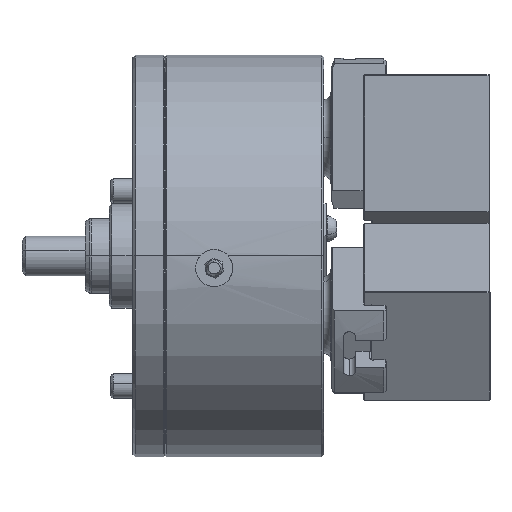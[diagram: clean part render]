
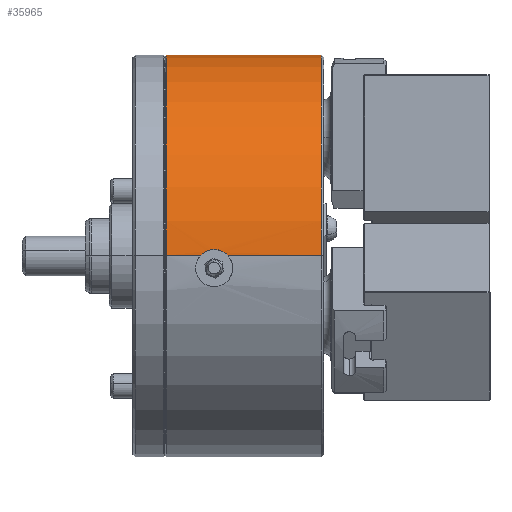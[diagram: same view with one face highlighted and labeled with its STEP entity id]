
A CAD part, top view. The second image highlights one B-rep face of the part: STEP entity #35965.
In plain terms, the highlighted cylindrical face has radius 81 mm (diameter 162 mm), a partial arc.
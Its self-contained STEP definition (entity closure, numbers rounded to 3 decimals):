
#706 = ORIENTED_EDGE ( 'NONE', *, *, #48794, .T. ) ;
#1682 = CARTESIAN_POINT ( 'NONE',  ( -80.961, 2.5, -44.464 ) ) ;
#2533 = CARTESIAN_POINT ( 'NONE',  ( 0., 0., -63.6 ) ) ;
#3473 = LINE ( 'NONE', #30294, #25094 ) ;
#4892 = DIRECTION ( 'NONE',  ( 0., 0., -1. ) ) ;
#5431 = EDGE_CURVE ( 'NONE', #20661, #7163, #3473, .T. ) ;
#5650 = CARTESIAN_POINT ( 'NONE',  ( -81., 0.39, -49.441 ) ) ;
#5854 = CARTESIAN_POINT ( 'NONE',  ( -80.963, 2.445, -43.155 ) ) ;
#6356 = AXIS2_PLACEMENT_3D ( 'NONE', #29260, #4892, #33348 ) ;
#6671 = DIRECTION ( 'NONE',  ( -1., 0., 0. ) ) ;
#7163 = VERTEX_POINT ( 'NONE', #44360 ) ;
#7672 = VERTEX_POINT ( 'NONE', #20949 ) ;
#8239 = FACE_OUTER_BOUND ( 'NONE', #20383, .T. ) ;
#9780 = CARTESIAN_POINT ( 'NONE',  ( -80.997, 0.749, -49.045 ) ) ;
#9901 = EDGE_CURVE ( 'NONE', #7672, #10346, #10875, .T. ) ;
#9946 = CARTESIAN_POINT ( 'NONE',  ( -80.97, 2.213, -42.128 ) ) ;
#10346 = VERTEX_POINT ( 'NONE', #22280 ) ;
#10875 = LINE ( 'NONE', #14349, #31211 ) ;
#11032 = AXIS2_PLACEMENT_3D ( 'NONE', #18103, #38410, #46587 ) ;
#11073 = EDGE_CURVE ( 'NONE', #21434, #42907, #24084, .T. ) ;
#13822 = CARTESIAN_POINT ( 'NONE',  ( -80.984, 1.63, -47.746 ) ) ;
#14015 = CARTESIAN_POINT ( 'NONE',  ( -80.976, 1.955, -41.382 ) ) ;
#14349 = CARTESIAN_POINT ( 'NONE',  ( -81., 0., -30.978 ) ) ;
#15987 = CARTESIAN_POINT ( 'NONE',  ( -81., 0., -49.79 ) ) ;
#16500 = B_SPLINE_CURVE_WITH_KNOTS ( 'NONE', 3,
 ( #34101, #5650, #9780, #38221, #13822, #42326, #17919, #46392, #21994, #50509, #26075, #1682, #30182, #5854, #34271, #9946, #38405, #14015, #42492, #18098, #46584, #22168, #50668 ),
 .UNSPECIFIED., .F., .F.,
 ( 4, 2, 2, 2, 1, 2, 2, 2, 2, 2, 2, 4 ),
 ( 0.034, 0.036, 0.038, 0.038, 0.039, 0.04, 0.041, 0.042, 0.043, 0.044, 0.045, 0.047 ),
 .UNSPECIFIED. ) ;
#17919 = CARTESIAN_POINT ( 'NONE',  ( -80.974, 2.049, -46.775 ) ) ;
#18098 = CARTESIAN_POINT ( 'NONE',  ( -80.989, 1.373, -40.21 ) ) ;
#18103 = CARTESIAN_POINT ( 'NONE',  ( 0., 0., -30.978 ) ) ;
#20383 = EDGE_LOOP ( 'NONE', ( #706, #51675, #21781, #39357, #22827, #42972 ) ) ;
#20661 = VERTEX_POINT ( 'NONE', #15987 ) ;
#20949 = CARTESIAN_POINT ( 'NONE',  ( -81., 0., -1. ) ) ;
#21434 = VERTEX_POINT ( 'NONE', #43509 ) ;
#21781 = ORIENTED_EDGE ( 'NONE', *, *, #34656, .F. ) ;
#21994 = CARTESIAN_POINT ( 'NONE',  ( -80.966, 2.348, -45.771 ) ) ;
#22168 = CARTESIAN_POINT ( 'NONE',  ( -81., 0.395, -38.963 ) ) ;
#22280 = CARTESIAN_POINT ( 'NONE',  ( -81., 0., -38.61 ) ) ;
#22827 = ORIENTED_EDGE ( 'NONE', *, *, #41090, .T. ) ;
#24084 = LINE ( 'NONE', #36626, #44494 ) ;
#25094 = VECTOR ( 'NONE', #46864, 1000. ) ;
#26075 = CARTESIAN_POINT ( 'NONE',  ( -80.962, 2.486, -44.73 ) ) ;
#29260 = CARTESIAN_POINT ( 'NONE',  ( 0., 0., -1. ) ) ;
#29886 = CIRCLE ( 'NONE', #6356, 81. ) ;
#30182 = CARTESIAN_POINT ( 'NONE',  ( -80.961, 2.5, -43.675 ) ) ;
#30294 = CARTESIAN_POINT ( 'NONE',  ( -81., 0., -30.978 ) ) ;
#31006 = DIRECTION ( 'NONE',  ( 0., 0., -1. ) ) ;
#31211 = VECTOR ( 'NONE', #42853, 1000. ) ;
#33348 = DIRECTION ( 'NONE',  ( -1., 0., 0. ) ) ;
#34101 = CARTESIAN_POINT ( 'NONE',  ( -81., 0., -49.79 ) ) ;
#34271 = CARTESIAN_POINT ( 'NONE',  ( -80.968, 2.282, -42.385 ) ) ;
#34656 = EDGE_CURVE ( 'NONE', #7163, #42907, #49144, .T. ) ;
#35965 = ADVANCED_FACE ( 'NONE', ( #8239 ), #47749, .T. ) ;
#36626 = CARTESIAN_POINT ( 'NONE',  ( 81., 0., -30.978 ) ) ;
#38221 = CARTESIAN_POINT ( 'NONE',  ( -80.989, 1.367, -48.198 ) ) ;
#38405 = CARTESIAN_POINT ( 'NONE',  ( -80.974, 2.05, -41.626 ) ) ;
#38410 = DIRECTION ( 'NONE',  ( 0., 0., -1. ) ) ;
#39357 = ORIENTED_EDGE ( 'NONE', *, *, #5431, .F. ) ;
#41090 = EDGE_CURVE ( 'NONE', #20661, #10346, #16500, .T. ) ;
#42326 = CARTESIAN_POINT ( 'NONE',  ( -80.977, 1.953, -47.023 ) ) ;
#42492 = CARTESIAN_POINT ( 'NONE',  ( -80.984, 1.635, -40.665 ) ) ;
#42853 = DIRECTION ( 'NONE',  ( 0., 0., -1. ) ) ;
#42907 = VERTEX_POINT ( 'NONE', #49241 ) ;
#42972 = ORIENTED_EDGE ( 'NONE', *, *, #9901, .F. ) ;
#43509 = CARTESIAN_POINT ( 'NONE',  ( 81., 0., -1. ) ) ;
#44360 = CARTESIAN_POINT ( 'NONE',  ( -81., 0., -63.6 ) ) ;
#44494 = VECTOR ( 'NONE', #44806, 1000. ) ;
#44806 = DIRECTION ( 'NONE',  ( 0., 0., -1. ) ) ;
#46392 = CARTESIAN_POINT ( 'NONE',  ( -80.97, 2.212, -46.276 ) ) ;
#46584 = CARTESIAN_POINT ( 'NONE',  ( -80.997, 0.749, -39.354 ) ) ;
#46587 = DIRECTION ( 'NONE',  ( -1., 0., 0. ) ) ;
#46864 = DIRECTION ( 'NONE',  ( 0., 0., -1. ) ) ;
#47749 = CYLINDRICAL_SURFACE ( 'NONE', #11032, 81. ) ;
#48794 = EDGE_CURVE ( 'NONE', #7672, #21434, #29886, .T. ) ;
#49144 = CIRCLE ( 'NONE', #52560, 81. ) ;
#49241 = CARTESIAN_POINT ( 'NONE',  ( 81., 0., -63.6 ) ) ;
#50509 = CARTESIAN_POINT ( 'NONE',  ( -80.964, 2.43, -45.254 ) ) ;
#50668 = CARTESIAN_POINT ( 'NONE',  ( -81., 0., -38.61 ) ) ;
#51675 = ORIENTED_EDGE ( 'NONE', *, *, #11073, .T. ) ;
#52560 = AXIS2_PLACEMENT_3D ( 'NONE', #2533, #31006, #6671 ) ;
